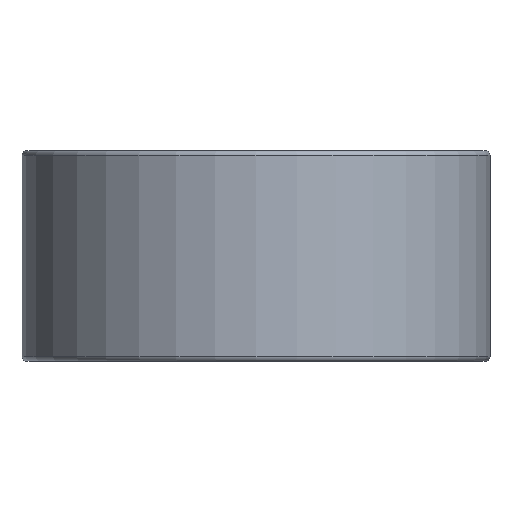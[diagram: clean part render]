
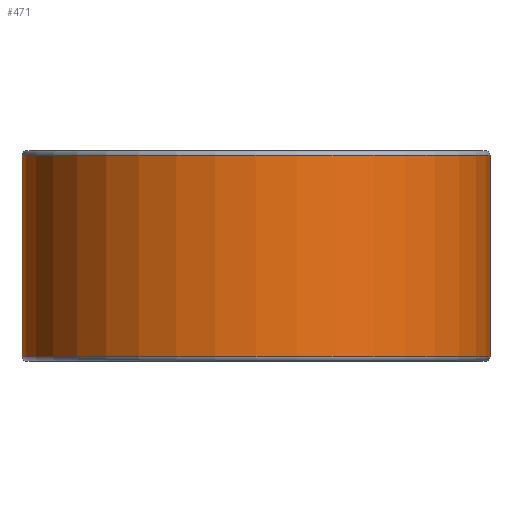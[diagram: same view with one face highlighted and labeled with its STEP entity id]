
A CAD part, front view. The second image highlights one B-rep face of the part: STEP entity #471.
In plain terms, the highlighted cylindrical face has radius 15.875 mm (diameter 31.75 mm), a full revolution.
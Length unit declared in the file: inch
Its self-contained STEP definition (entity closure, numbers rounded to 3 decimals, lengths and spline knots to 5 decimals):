
#23=FACE_BOUND('',#165,.T.);
#33=B_SPLINE_CURVE_WITH_KNOTS('',3,(#810,#811,#812,#813,#814,#815,#816,
#817,#818,#819,#820,#821,#822,#823,#824,#825,#826,#827,#828,#829,#830,#831,
#832,#833,#834,#835,#836,#837,#838,#839,#840,#841,#842,#843),
 .UNSPECIFIED.,.T.,.F.,(4,2,2,2,2,2,2,2,2,2,2,2,2,2,2,2,4),(-2.40298,
-2.25278,-2.10258,-1.95241,-1.80223,
-1.65206,-1.50188,-1.35169,-1.20149,
-1.05129,-0.9011,-0.75092,-0.60074,
-0.45057,-0.30039,-0.1502,0.),
 .UNSPECIFIED.);
#63=LINE('',#866,#91);
#91=VECTOR('',#656,0.625);
#119=CYLINDRICAL_SURFACE('',#543,0.625);
#134=FACE_OUTER_BOUND('',#164,.T.);
#164=EDGE_LOOP('',(#381,#382,#383,#384,#385,#386));
#165=EDGE_LOOP('',(#387));
#201=CIRCLE('',#524,0.625);
#202=CIRCLE('',#525,0.625);
#203=CIRCLE('',#527,0.625);
#204=CIRCLE('',#528,0.625);
#230=VERTEX_POINT('',#758);
#231=VERTEX_POINT('',#760);
#232=VERTEX_POINT('',#764);
#233=VERTEX_POINT('',#765);
#243=VERTEX_POINT('',#808);
#278=EDGE_CURVE('',#231,#230,#201,.T.);
#279=EDGE_CURVE('',#230,#231,#202,.T.);
#280=EDGE_CURVE('',#232,#233,#203,.T.);
#281=EDGE_CURVE('',#233,#232,#204,.T.);
#294=EDGE_CURVE('',#243,#243,#33,.T.);
#297=EDGE_CURVE('',#232,#231,#63,.T.);
#381=ORIENTED_EDGE('',*,*,#280,.T.);
#382=ORIENTED_EDGE('',*,*,#281,.T.);
#383=ORIENTED_EDGE('',*,*,#297,.T.);
#384=ORIENTED_EDGE('',*,*,#278,.T.);
#385=ORIENTED_EDGE('',*,*,#279,.T.);
#386=ORIENTED_EDGE('',*,*,#297,.F.);
#387=ORIENTED_EDGE('',*,*,#294,.T.);
#471=ADVANCED_FACE('',(#134,#23),#119,.T.);
#524=AXIS2_PLACEMENT_3D('',#761,#614,#615);
#525=AXIS2_PLACEMENT_3D('',#762,#616,#617);
#527=AXIS2_PLACEMENT_3D('',#766,#620,#621);
#528=AXIS2_PLACEMENT_3D('',#767,#622,#623);
#543=AXIS2_PLACEMENT_3D('',#865,#654,#655);
#614=DIRECTION('center_axis',(0.,0.,-1.));
#615=DIRECTION('ref_axis',(1.,0.,0.));
#616=DIRECTION('center_axis',(0.,0.,-1.));
#617=DIRECTION('ref_axis',(1.,0.,0.));
#620=DIRECTION('center_axis',(0.,0.,1.));
#621=DIRECTION('ref_axis',(1.,0.,0.));
#622=DIRECTION('center_axis',(0.,0.,1.));
#623=DIRECTION('ref_axis',(1.,0.,0.));
#654=DIRECTION('center_axis',(0.,0.,-1.));
#655=DIRECTION('ref_axis',(-1.,0.,0.));
#656=DIRECTION('',(0.,0.,1.));
#758=CARTESIAN_POINT('',(-0.625,0.,0.55));
#760=CARTESIAN_POINT('',(0.625,0.,0.55));
#761=CARTESIAN_POINT('Origin',(0.,0.,0.55));
#762=CARTESIAN_POINT('Origin',(0.,0.,0.55));
#764=CARTESIAN_POINT('',(0.625,0.,0.0125));
#765=CARTESIAN_POINT('',(-0.625,0.,0.0125));
#766=CARTESIAN_POINT('Origin',(0.,0.,0.0125));
#767=CARTESIAN_POINT('Origin',(0.,0.,0.0125));
#808=CARTESIAN_POINT('',(0.,0.625,0.125));
#810=CARTESIAN_POINT('Ctrl Pts',(0.15625,0.60515,0.28125));
#811=CARTESIAN_POINT('Ctrl Pts',(0.15625,0.60515,0.30096));
#812=CARTESIAN_POINT('Ctrl Pts',(0.15229,0.60622,0.32193));
#813=CARTESIAN_POINT('Ctrl Pts',(0.13632,0.61001,0.3604));
#814=CARTESIAN_POINT('Ctrl Pts',(0.12431,0.61267,0.37791));
#815=CARTESIAN_POINT('Ctrl Pts',(0.09666,0.61764,0.40556));
#816=CARTESIAN_POINT('Ctrl Pts',(0.07915,0.62027,0.41757));
#817=CARTESIAN_POINT('Ctrl Pts',(0.04067,0.62397,0.43354));
#818=CARTESIAN_POINT('Ctrl Pts',(0.01971,0.625,0.4375));
#819=CARTESIAN_POINT('Ctrl Pts',(-0.01971,0.625,0.4375));
#820=CARTESIAN_POINT('Ctrl Pts',(-0.04067,0.62397,
0.43354));
#821=CARTESIAN_POINT('Ctrl Pts',(-0.07915,0.62027,
0.41757));
#822=CARTESIAN_POINT('Ctrl Pts',(-0.09666,0.61764,
0.40556));
#823=CARTESIAN_POINT('Ctrl Pts',(-0.12431,0.61267,0.37791));
#824=CARTESIAN_POINT('Ctrl Pts',(-0.13632,0.61001,0.3604));
#825=CARTESIAN_POINT('Ctrl Pts',(-0.15229,0.60622,0.32193));
#826=CARTESIAN_POINT('Ctrl Pts',(-0.15625,0.60515,0.30096));
#827=CARTESIAN_POINT('Ctrl Pts',(-0.15625,0.60515,0.26154));
#828=CARTESIAN_POINT('Ctrl Pts',(-0.15229,0.60622,0.24057));
#829=CARTESIAN_POINT('Ctrl Pts',(-0.13632,0.61001,0.2021));
#830=CARTESIAN_POINT('Ctrl Pts',(-0.12431,0.61267,0.18459));
#831=CARTESIAN_POINT('Ctrl Pts',(-0.09666,0.61764,
0.15694));
#832=CARTESIAN_POINT('Ctrl Pts',(-0.07915,0.62027,
0.14493));
#833=CARTESIAN_POINT('Ctrl Pts',(-0.04067,0.62397,
0.12896));
#834=CARTESIAN_POINT('Ctrl Pts',(-0.01971,0.625,0.125));
#835=CARTESIAN_POINT('Ctrl Pts',(0.01971,0.625,0.125));
#836=CARTESIAN_POINT('Ctrl Pts',(0.04067,0.62397,0.12896));
#837=CARTESIAN_POINT('Ctrl Pts',(0.07915,0.62027,0.14493));
#838=CARTESIAN_POINT('Ctrl Pts',(0.09666,0.61764,0.15694));
#839=CARTESIAN_POINT('Ctrl Pts',(0.12431,0.61267,0.18459));
#840=CARTESIAN_POINT('Ctrl Pts',(0.13632,0.61001,0.2021));
#841=CARTESIAN_POINT('Ctrl Pts',(0.15229,0.60622,0.24057));
#842=CARTESIAN_POINT('Ctrl Pts',(0.15625,0.60515,0.26154));
#843=CARTESIAN_POINT('Ctrl Pts',(0.15625,0.60515,0.28125));
#865=CARTESIAN_POINT('Origin',(0.,0.,0.5625));
#866=CARTESIAN_POINT('',(0.625,0.,0.5625));
